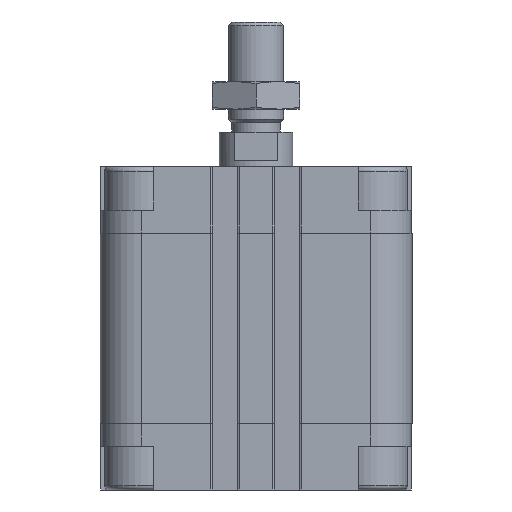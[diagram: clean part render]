
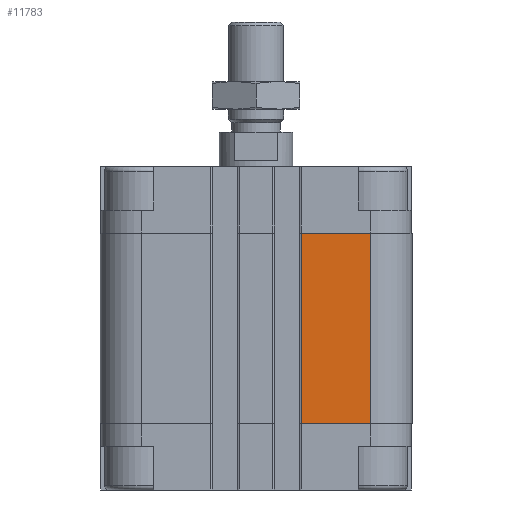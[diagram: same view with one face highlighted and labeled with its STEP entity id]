
A CAD part, front view. The second image highlights one B-rep face of the part: STEP entity #11783.
In plain terms, the highlighted planar face has unit normal (0, -1, 0).
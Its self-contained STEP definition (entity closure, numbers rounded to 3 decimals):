
#374 = EDGE_LOOP ( 'NONE', ( #18820, #18915, #1918, #1817 ) ) ;
#418 = VERTEX_POINT ( 'NONE', #17862 ) ;
#1817 = ORIENTED_EDGE ( 'NONE', *, *, #8023, .T. ) ;
#1918 = ORIENTED_EDGE ( 'NONE', *, *, #8852, .T. ) ;
#2163 = VERTEX_POINT ( 'NONE', #4150 ) ;
#2194 = EDGE_CURVE ( 'NONE', #20224, #2163, #4501, .T. ) ;
#2533 = CARTESIAN_POINT ( 'NONE',  ( 9.85, -34., -14.5 ) ) ;
#2690 = CARTESIAN_POINT ( 'NONE',  ( 9.85, -34., -56. ) ) ;
#3105 = EDGE_CURVE ( 'NONE', #418, #20224, #15163, .T. ) ;
#3244 = VECTOR ( 'NONE', #13577, 1000. ) ;
#4150 = CARTESIAN_POINT ( 'NONE',  ( 25., -34., -14.5 ) ) ;
#4501 = LINE ( 'NONE', #2533, #15702 ) ;
#4863 = VERTEX_POINT ( 'NONE', #17780 ) ;
#5269 = VECTOR ( 'NONE', #20396, 1000. ) ;
#5694 = PLANE ( 'NONE',  #10520 ) ;
#8023 = EDGE_CURVE ( 'NONE', #4863, #2163, #20784, .T. ) ;
#8852 = EDGE_CURVE ( 'NONE', #418, #4863, #18310, .T. ) ;
#8936 = DIRECTION ( 'NONE',  ( -1., 0., 0. ) ) ;
#9475 = CARTESIAN_POINT ( 'NONE',  ( 9.85, -34., -14.5 ) ) ;
#9794 = DIRECTION ( 'NONE',  ( 1., 0., 0. ) ) ;
#10520 = AXIS2_PLACEMENT_3D ( 'NONE', #17792, #14444, #8936 ) ;
#10654 = VECTOR ( 'NONE', #9794, 1000. ) ;
#11783 = ADVANCED_FACE ( 'NONE', ( #12439 ), #5694, .T. ) ;
#12439 = FACE_OUTER_BOUND ( 'NONE', #374, .T. ) ;
#13577 = DIRECTION ( 'NONE',  ( 0., 0., 1. ) ) ;
#14444 = DIRECTION ( 'NONE',  ( 0., -1., 0. ) ) ;
#14760 = DIRECTION ( 'NONE',  ( 1., 0., 0. ) ) ;
#15163 = LINE ( 'NONE', #16889, #5269 ) ;
#15702 = VECTOR ( 'NONE', #14760, 1000. ) ;
#16889 = CARTESIAN_POINT ( 'NONE',  ( 9.85, -34., -56. ) ) ;
#17780 = CARTESIAN_POINT ( 'NONE',  ( 25., -34., -56. ) ) ;
#17792 = CARTESIAN_POINT ( 'NONE',  ( 9.85, -34., -56. ) ) ;
#17862 = CARTESIAN_POINT ( 'NONE',  ( 9.85, -34., -56. ) ) ;
#18310 = LINE ( 'NONE', #2690, #10654 ) ;
#18820 = ORIENTED_EDGE ( 'NONE', *, *, #2194, .F. ) ;
#18915 = ORIENTED_EDGE ( 'NONE', *, *, #3105, .F. ) ;
#19028 = CARTESIAN_POINT ( 'NONE',  ( 25., -34., -56. ) ) ;
#20224 = VERTEX_POINT ( 'NONE', #9475 ) ;
#20396 = DIRECTION ( 'NONE',  ( 0., 0., 1. ) ) ;
#20784 = LINE ( 'NONE', #19028, #3244 ) ;
